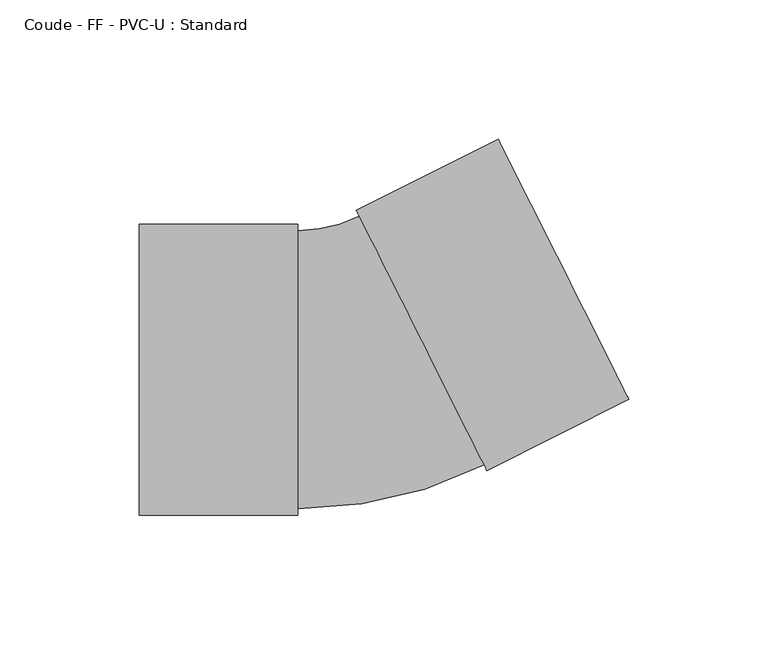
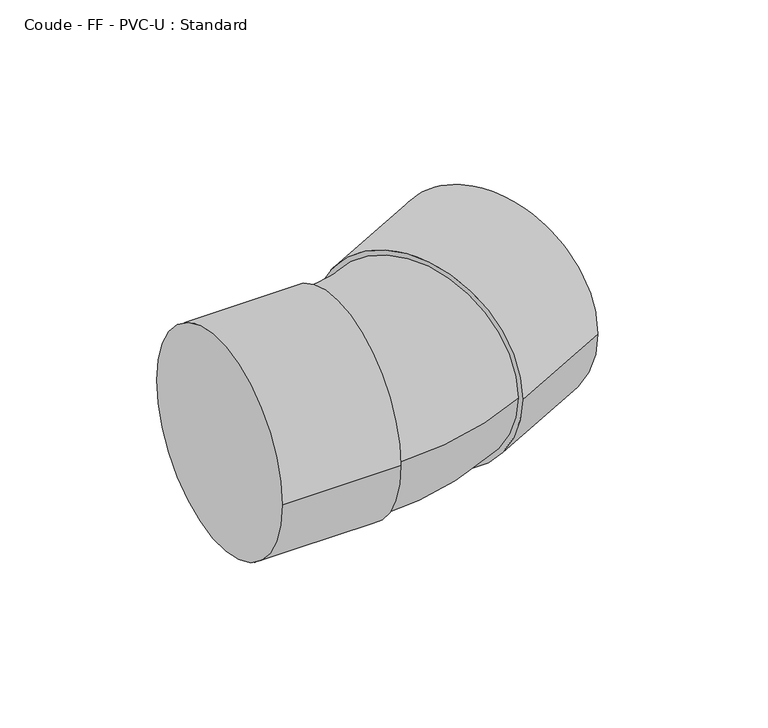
"""IFC4 building model written with IfcOpenShell, lengths in millimetres: pipe fitting geometry, Coude - FF - PVC-U : Standard."""

from ifc_helpers import new_model, si_unit, point, frame, origin, place, context, project, spatial, circle_curve, ellipse_curve, trimmed, source, transform, mapped, element, save
from ifc_brep_helpers import plane_surface, cylinder_surface, revolved_surface, advanced_brep


def coude_ff_pvc_u_standard_ec0473e6(model_context):
    return source(origin(), model_context, "Body", "AdvancedBrep", [
        advanced_brep(
        [(-80.5, -52.3, 0.0), (-80.5, 52.3, 0.0), (-23.5, -52.3, 0.0), (-23.5, 52.3, 0.0), (-23.5, -50.0, 0.0), (-23.5, 50.0, 0.0), (-1.4037253, 55.229336, 0.0), (43.4181491, -34.1630551, 0.0), (44.4490522, -36.2190801, 0.0), (-2.4346284, 57.285361, 0.0), (95.4027151, -10.6706117, 0.0), (48.5190345, 82.8338294, 0.0)],
        [
            (0, 1, circle_curve(frame((-80.5, 0.0, 0.0), z_axis=(-1.0, 0.0, 0.0), x_axis=(0.0, 1.0, 0.0)), 52.3)),
            (1, 0, circle_curve(frame((-80.5, 0.0, 0.0), z_axis=(-1.0, 0.0, 0.0), x_axis=(0.0, 1.0, 0.0)), 52.3)),
            (2, 3, circle_curve(frame((-23.5, 0.0, 0.0), z_axis=(1.0, 0.0, 0.0), x_axis=(0.0, 1.0, 0.0)), 52.3)),
            (3, 2, circle_curve(frame((-23.5, 0.0, 0.0), z_axis=(1.0, 0.0, 0.0), x_axis=(0.0, 1.0, 0.0)), 52.3)),
            (4, 5, circle_curve(frame((-23.5, 0.0, 0.0), z_axis=(-1.0, 0.0, 0.0), x_axis=(0.0, 1.0, 0.0)), 50.0)),
            (5, 4, circle_curve(frame((-23.5, 0.0, 0.0), z_axis=(-1.0, 0.0, 0.0), x_axis=(0.0, 1.0, 0.0)), 50.0)),
            (0, 2),
            (3, 1),
            (6, 5, circle_curve(frame((-23.5, 99.2979713, 0.0), z_axis=(0.0, 0.0, -1.0), x_axis=(0.0, -1.0, 0.0)), 49.2979713)),
            (4, 7, circle_curve(frame((-23.5, 99.2979713, 0.0), z_axis=(0.0, 0.0, 1.0), x_axis=(0.0, -1.0, 0.0)), 149.2979713)),
            (7, 6, circle_curve(frame((21.0072119, 10.5331405, 0.0), z_axis=(-0.8939239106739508, -0.44821874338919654, 0.0), x_axis=(-0.44821874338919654, 0.8939239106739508, 0.0)), 50.0)),
            (6, 7, circle_curve(frame((21.0072119, 10.5331405, 0.0), z_axis=(-0.8939239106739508, -0.44821874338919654, 0.0), x_axis=(-0.44821874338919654, 0.8939239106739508, 0.0)), 50.0)),
            (8, 9, circle_curve(frame((21.0072119, 10.5331405, 0.0), z_axis=(-0.8939239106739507, -0.44821874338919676, 0.0), x_axis=(-0.44821874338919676, 0.8939239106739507, 0.0)), 52.3)),
            (9, 8, circle_curve(frame((21.0072119, 10.5331405, 0.0), z_axis=(-0.8939239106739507, -0.44821874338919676, 0.0), x_axis=(-0.44821874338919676, 0.8939239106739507, 0.0)), 52.3)),
            (10, 11, circle_curve(frame((71.9608748, 36.0816088, 0.0), z_axis=(0.8939239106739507, 0.44821874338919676, 0.0), x_axis=(-0.44821874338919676, 0.8939239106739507, 0.0)), 52.3)),
            (11, 10, circle_curve(frame((71.9608748, 36.0816088, 0.0), z_axis=(0.8939239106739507, 0.44821874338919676, 0.0), x_axis=(-0.44821874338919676, 0.8939239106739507, 0.0)), 52.3)),
            (8, 10),
            (11, 9),
        ],
        [
            plane_surface(frame((-80.5, 0.0, 0.0), z_axis=(-1.0, 0.0, 0.0), x_axis=(0.0, 0.0, 1.0))),
            plane_surface(frame((-23.5, 0.0, 0.0), z_axis=(1.0, 0.0, 0.0), x_axis=(0.0, 0.0, 1.0))),
            cylinder_surface(frame((-80.5, 0.0, 0.0), z_axis=(-1.0, 0.0, 0.0), x_axis=(0.0, 1.0, 0.0)), 52.3),
            revolved_surface(trimmed(ellipse_curve(frame((-23.5, 0.0, 0.0), z_axis=(-1.0, 0.0, 0.0), x_axis=(0.0, 1.0, 0.0)), 50.0, 50.0), [point((-23.5, -50.0, 0.0))], [point((-23.5, 50.0, 0.0))], True, "CARTESIAN"), (-23.5, 99.2979713, 0.0), (0.0, 0.0, 1.0)),
            revolved_surface(trimmed(ellipse_curve(frame((-23.5, 0.0, 0.0), z_axis=(-1.0, 0.0, 0.0), x_axis=(0.0, 1.0, 0.0)), 50.0, 50.0), [point((-23.5, 50.0, 0.0))], [point((-23.5, -50.0, 0.0))], True, "CARTESIAN"), (-23.5, 99.2979713, 0.0), (0.0, 0.0, 1.0)),
            plane_surface(frame((21.0072119, 10.5331405, 0.0), z_axis=(-0.8939239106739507, -0.44821874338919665, 0.0), x_axis=(0.0, 0.0, 1.0))),
            plane_surface(frame((71.9608748, 36.0816088, 0.0), z_axis=(0.8939239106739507, 0.44821874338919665, 0.0), x_axis=(0.0, 0.0, 1.0))),
            cylinder_surface(frame((21.0072119, 10.5331405, 0.0), z_axis=(-0.8939239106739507, -0.44821874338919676, 0.0), x_axis=(-0.44821874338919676, 0.8939239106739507, 0.0)), 52.3),
        ],
        [
            (0, [[1, 2]]),
            (1, [[3, 4], [5, 6]]),
            (2, [[-1, 7, -4, 8]]),
            (2, [[-2, -8, -3, -7]]),
            (3, [[9, -5, 10, 11]]),
            (4, [[-9, 12, -10, -6]]),
            (5, [[13, 14], [-11, -12]]),
            (6, [[15, 16]]),
            (7, [[-13, 17, -16, 18]]),
            (7, [[-14, -18, -15, -17]]),
        ],
    ),
    ])


if __name__ == "__main__":
    model = new_model("IFC4")
    model_context = context("Model", 3, world=origin())
    ifc_project = project(units=[si_unit("LENGTHUNIT", "METRE", prefix="MILLI")], contexts=[model_context])
    site = spatial("IfcSite", under=ifc_project)
    building = spatial("IfcBuilding", under=site)
    placement = place(None, origin())
    coude_ff_pvc_u_standard_shape = coude_ff_pvc_u_standard_ec0473e6(model_context)
    element("IfcPipeFitting", 1, ObjectType="Coude - FF - PVC-U : Standard", at=placement, inside=building, context=model_context, shape_type="MappedRepresentation", body=[
        mapped(coude_ff_pvc_u_standard_shape, transform((0.0, 0.0, 0.0), x_axis=(1.0, 0.0, 0.0), y_axis=(0.0, 1.0, 0.0), z_axis=(0.0, 0.0, 1.0))),
    ])
    save(model, "model.ifc")
